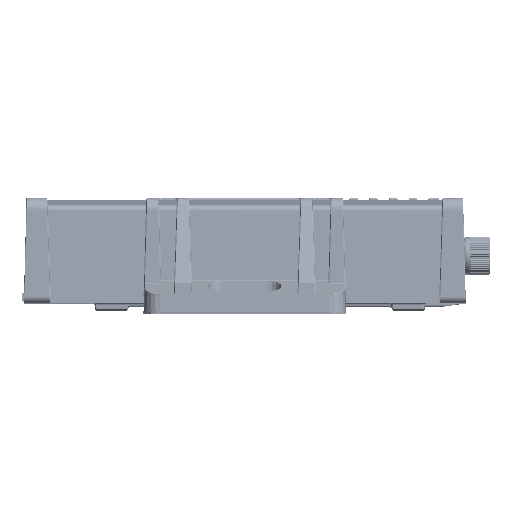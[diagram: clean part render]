
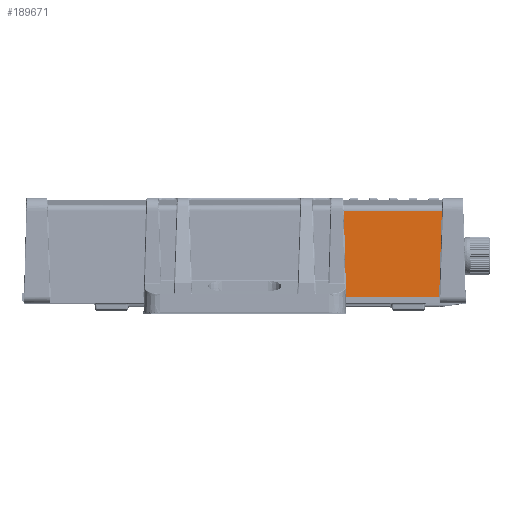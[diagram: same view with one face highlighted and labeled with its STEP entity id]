
A CAD part, top view. The second image highlights one B-rep face of the part: STEP entity #189671.
In plain terms, the highlighted planar face has unit normal (0, 0.035, 0.999).
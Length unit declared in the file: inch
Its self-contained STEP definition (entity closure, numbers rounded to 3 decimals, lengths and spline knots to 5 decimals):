
#1372 = DIRECTION ( 'NONE',  ( 0., -0.035, -0.999 ) ) ;
#2559 = PLANE ( 'NONE',  #21803 ) ;
#4246 = CARTESIAN_POINT ( 'NONE',  ( -1.973, 0.81363, 5.68935 ) ) ;
#7655 = CARTESIAN_POINT ( 'NONE',  ( -2.0043, -0.2111, 5.72513 ) ) ;
#9167 = LINE ( 'NONE', #194862, #127065 ) ;
#21803 = AXIS2_PLACEMENT_3D ( 'NONE', #76162, #1372, #39985 ) ;
#37326 = CARTESIAN_POINT ( 'NONE',  ( -3.13516, 0.52916, 5.69928 ) ) ;
#37739 = VECTOR ( 'NONE', #91098, 39.37008 ) ;
#39685 = CARTESIAN_POINT ( 'NONE',  ( -3.12021, -0.03979, 5.71915 ) ) ;
#39985 = DIRECTION ( 'NONE',  ( 1., 0., 0. ) ) ;
#57386 = LINE ( 'NONE', #4246, #179904 ) ;
#57638 = EDGE_CURVE ( 'NONE', #205211, #160572, #222539, .T. ) ;
#66810 = EDGE_LOOP ( 'NONE', ( #67956, #104075, #214108, #84764, #110891 ) ) ;
#67956 = ORIENTED_EDGE ( 'NONE', *, *, #91343, .F. ) ;
#75399 = CARTESIAN_POINT ( 'NONE',  ( -4.3263, -0.2111, 5.72513 ) ) ;
#76162 = CARTESIAN_POINT ( 'NONE',  ( -4.24994, -0.20725, 5.725 ) ) ;
#78442 = EDGE_CURVE ( 'NONE', #87277, #213777, #91085, .T. ) ;
#82289 = VERTEX_POINT ( 'NONE', #98835 ) ;
#83584 = VECTOR ( 'NONE', #212024, 39.37008 ) ;
#84764 = ORIENTED_EDGE ( 'NONE', *, *, #57638, .F. ) ;
#87090 = CARTESIAN_POINT ( 'NONE',  ( -3.14263, 0.81363, 5.68935 ) ) ;
#87277 = VERTEX_POINT ( 'NONE', #87090 ) ;
#91085 = B_SPLINE_CURVE_WITH_KNOTS ( 'NONE', 3,
 ( #95108, #37326, #132500, #39685 ),
 .UNSPECIFIED., .F., .F.,
 ( 4, 4 ),
 ( 0., 1. ),
 .UNSPECIFIED. ) ;
#91098 = DIRECTION ( 'NONE',  ( -1., 0., 0. ) ) ;
#91343 = EDGE_CURVE ( 'NONE', #87277, #82289, #155343, .T. ) ;
#94712 = DIRECTION ( 'NONE',  ( -0.031, -0.999, 0.035 ) ) ;
#95108 = CARTESIAN_POINT ( 'NONE',  ( -3.14263, 0.81363, 5.68935 ) ) ;
#98835 = CARTESIAN_POINT ( 'NONE',  ( -1.973, 0.81363, 5.68935 ) ) ;
#104075 = ORIENTED_EDGE ( 'NONE', *, *, #78442, .T. ) ;
#110891 = ORIENTED_EDGE ( 'NONE', *, *, #221541, .F. ) ;
#112724 = CARTESIAN_POINT ( 'NONE',  ( -3.11423, -0.2111, 5.72513 ) ) ;
#127065 = VECTOR ( 'NONE', #156290, 39.37008 ) ;
#130425 = FACE_OUTER_BOUND ( 'NONE', #66810, .T. ) ;
#132500 = CARTESIAN_POINT ( 'NONE',  ( -3.12769, 0.24468, 5.70922 ) ) ;
#155343 = LINE ( 'NONE', #225344, #83584 ) ;
#156290 = DIRECTION ( 'NONE',  ( -0.035, 0.999, -0.035 ) ) ;
#160572 = VERTEX_POINT ( 'NONE', #112724 ) ;
#175974 = CARTESIAN_POINT ( 'NONE',  ( -3.12021, -0.03979, 5.71915 ) ) ;
#179904 = VECTOR ( 'NONE', #94712, 39.37008 ) ;
#189671 = ADVANCED_FACE ( 'NONE', ( #130425 ), #2559, .F. ) ;
#194862 = CARTESIAN_POINT ( 'NONE',  ( -3.11423, -0.2111, 5.72513 ) ) ;
#205211 = VERTEX_POINT ( 'NONE', #7655 ) ;
#212024 = DIRECTION ( 'NONE',  ( 1., 0., 0. ) ) ;
#213777 = VERTEX_POINT ( 'NONE', #175974 ) ;
#214108 = ORIENTED_EDGE ( 'NONE', *, *, #225860, .F. ) ;
#221541 = EDGE_CURVE ( 'NONE', #82289, #205211, #57386, .T. ) ;
#222539 = LINE ( 'NONE', #75399, #37739 ) ;
#225344 = CARTESIAN_POINT ( 'NONE',  ( -4.24994, 0.81363, 5.68935 ) ) ;
#225860 = EDGE_CURVE ( 'NONE', #160572, #213777, #9167, .T. ) ;
